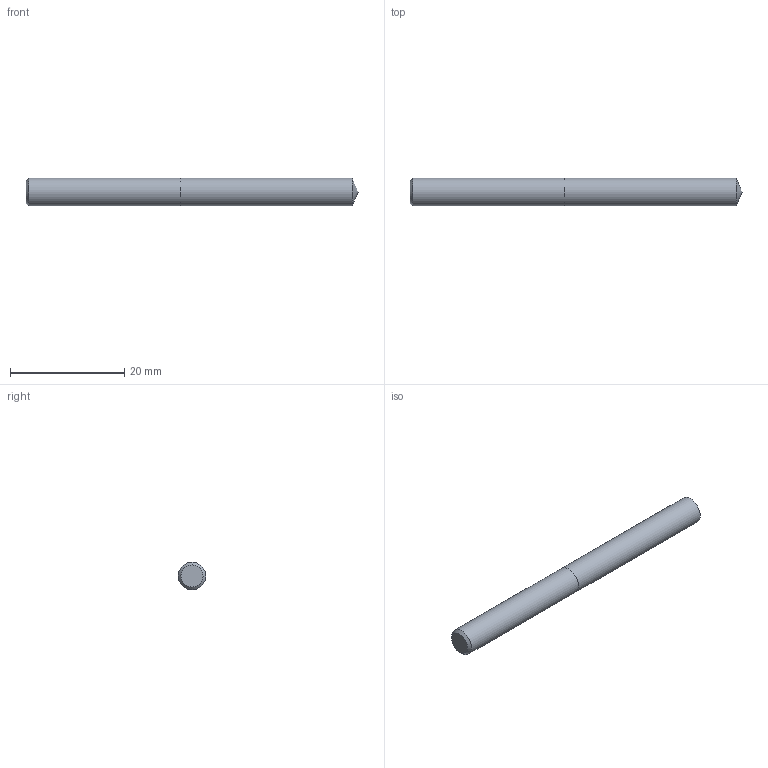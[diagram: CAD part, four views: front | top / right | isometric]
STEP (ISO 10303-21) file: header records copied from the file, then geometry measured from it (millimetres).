
FILE_DESCRIPTION (( 'STEP AP214' ), '1' );
FILE_NAME ('03-2353.STEP', '2022-06-03T06:37:19', ( 'USER' ), ( '' ), 'SwSTEP 2.0', 'SolidWorks 2018', '' );
FILE_SCHEMA (( 'AUTOMOTIVE_DESIGN' ));
Length unit declared in the file: inch
Products named in the file (1): 03-2353
Bounding box: 58.15 x 4.85 x 4.85 mm (x, y, z)
Volume: 1060.9 mm3; surface area: 941.9 mm2
Topology: 2 solids, 2 shells, 7 faces, 11 edges, 7 vertices
Faces by surface type: plane 3, cylinder 2, cone 2
Full cylindrical faces by diameter (mm): 4.851 x2
Entity records: 214 total; most frequent: DIRECTION 26, CARTESIAN_POINT 18, AXIS2_PLACEMENT_3D 13, ORIENTED_EDGE 10, EDGE_LOOP 10, FACE_OUTER_BOUND 9, LENGTH_MEASURE_WITH_UNIT 7, DIMENSIONAL_EXPONENTS 7
